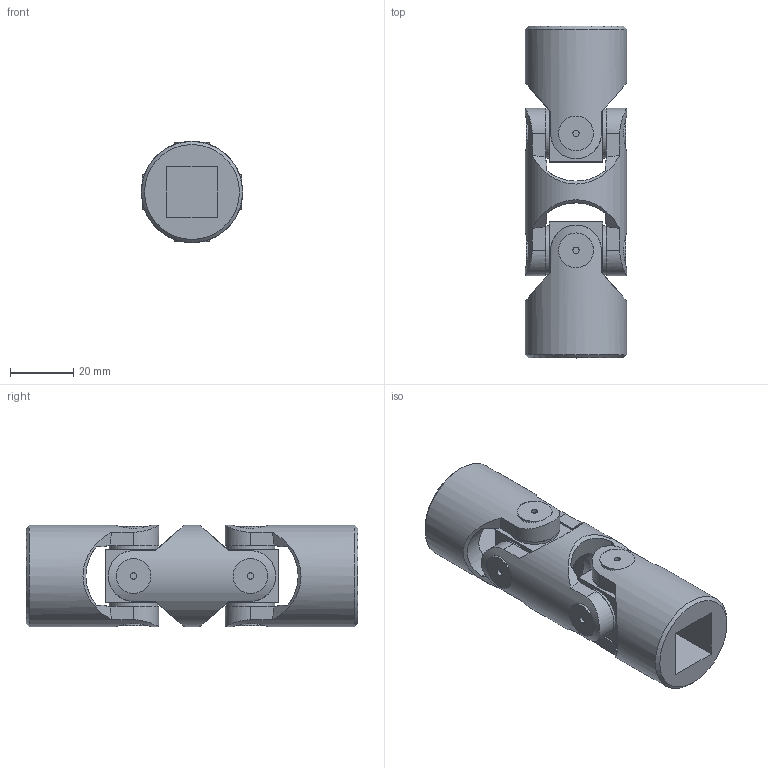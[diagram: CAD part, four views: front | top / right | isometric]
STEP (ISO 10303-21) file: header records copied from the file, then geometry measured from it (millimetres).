
FILE_DESCRIPTION(/* description */ (''),/* implementation_level */ '2;1');
FILE_NAME(/* name */ '\\SRV2016\Societa\Stefano\Disegni 3D\00Catalogo 3D\02Doppi GD-GBD\SG0D162Q.stp',/* time_stamp */ '2021-11-22T17:22:52+01:00',/* author */ ('acquisti'),/* organization */ (''),/* preprocessor_version */ 'ST-DEVELOPER v15.6',/* originating_system */ 'Autodesk Inventor 2015',/* authorisation */ '');
FILE_SCHEMA (('AUTOMOTIVE_DESIGN { 1 0 10303 214 3 1 1 }'));
Length unit declared in the file: millimetre
Products named in the file (4): 1G MOD; 1G SFE; 1G MOQ; Ø32_1GD-00_SG0D1600
Assembly tree (5 placements, depth 2):
  Ø32_1GD-00_SG0D1600
    1G MOD
    1G SFE  x2
    1G MOQ  x2
Bounding box: 32 x 105 x 32 mm (x, y, z)
Volume: 54704.8 mm3; surface area: 22031.7 mm2
Topology: 5 solids, 5 shells, 179 faces, 425 edges, 276 vertices
Faces by surface type: plane 78, cylinder 69, cone 28, torus 4
Full cylindrical faces by diameter (mm): 2 x8, 15.5 x8, 18 x2, 32 x3
Entity records: 4014 total; most frequent: CARTESIAN_POINT 1377, ORIENTED_EDGE 524, DIRECTION 510, EDGE_CURVE 262, AXIS2_PLACEMENT_3D 223, VERTEX_POINT 180, EDGE_LOOP 158, FACE_OUTER_BOUND 121
